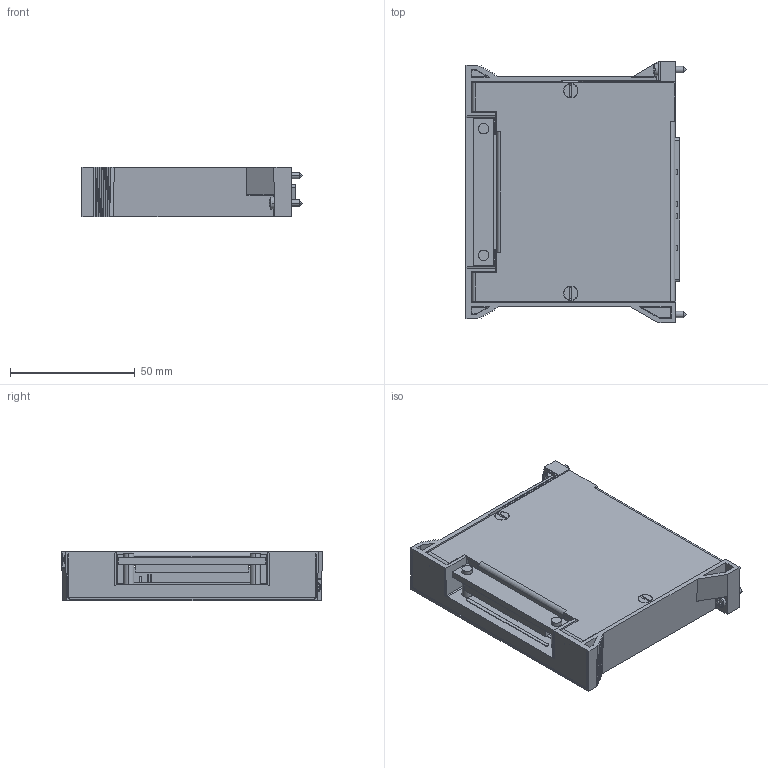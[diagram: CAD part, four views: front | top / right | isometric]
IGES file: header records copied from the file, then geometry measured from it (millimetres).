
Start section:  PTC IGES file: cd_tb-2630b.igs
Global section: file name: cd_tb-2630b.igs; native system: Pro/ENGINEER by Parametric Technology Corporation; preprocessor: 2010230; author: jjorden; organization: Unknown; date: 20110203.123303; units: inch
Bounding box: 88.31 x 104.78 x 20.02 mm (x, y, z)
Surface area: 53473.7 mm2 (no closed solid volume)
Topology: 0 solids, 0 shells, 1442 faces, 7570 edges, 7506 vertices
Faces by surface type: bspline 1091, revolution 351
